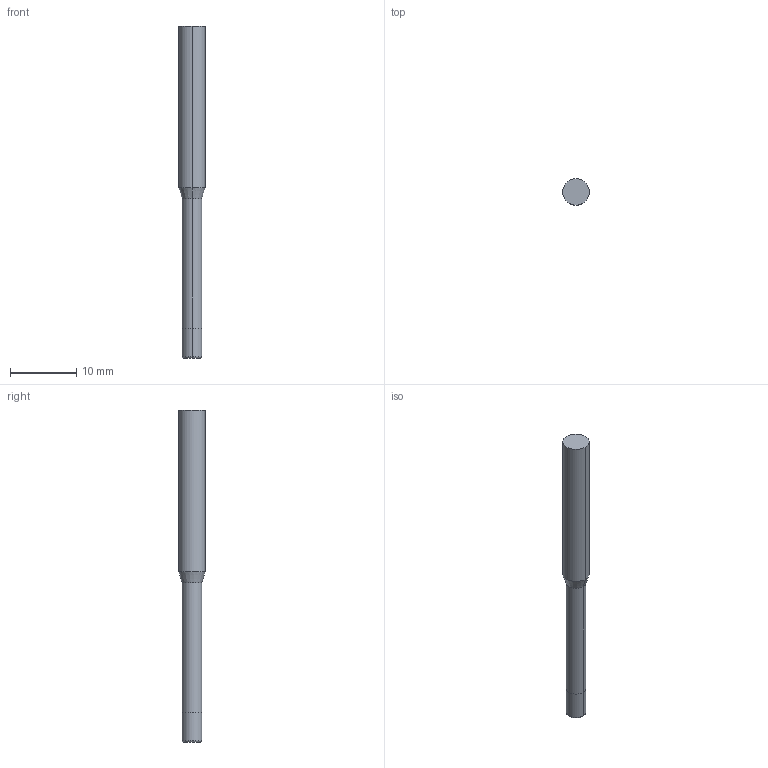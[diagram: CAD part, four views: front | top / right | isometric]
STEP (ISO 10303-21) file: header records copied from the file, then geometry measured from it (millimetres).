
FILE_DESCRIPTION((' '),'2;1');
FILE_NAME( '3MVSM0300R.20N8AH.stp', '2026-01-21T19:28:10', (' '), ('--- Datakit www.datakit.com---'), ' Datakit CrossCadWare V2025.4 Sep 19 2025', 'Mastercam 2027', ' ');
FILE_SCHEMA(('AUTOMOTIVE_DESIGN { 1 0 10303 214 1 1 1 1 }'));
Length unit declared in the file: inch
Products named in the file (1): 3MVSM0300R
Bounding box: 4 x 4 x 50 mm (x, y, z)
Volume: 491.6 mm3; surface area: 570 mm2
Topology: 1 solids, 1 shells, 12 faces, 22 edges, 12 vertices
Faces by surface type: cylinder 6, plane 2, torus 2, cone 2
Entity records: 377 total; most frequent: DIRECTION 70, CARTESIAN_POINT 51, ORIENTED_EDGE 44, AXIS2_PLACEMENT_3D 31, EDGE_CURVE 22, CIRCLE 14, VERTEX_POINT 12, EDGE_LOOP 12
